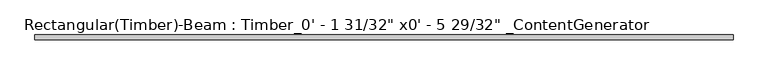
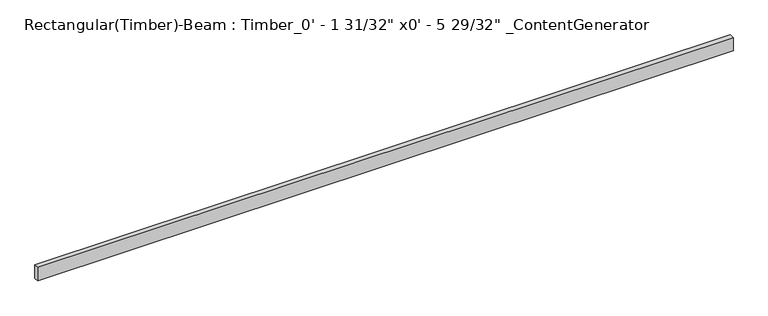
"""IFC4 building model written with IfcOpenShell, lengths in millimetres: beam geometry."""

from ifc_helpers import new_model, si_unit, frame, origin, place, context, project, spatial, polyline, outline, extrude, source, transform, mapped, element, save


def beam_53cde7c3(model_context):
    return source(origin(), model_context, "Body", "SweptSolid", [
        extrude(outline(polyline([(3759.1975, 25.4), (3759.1975, -25.4), (-3759.1975, -25.4), (-3759.1975, 25.4), (3759.1975, 25.4)])), frame((0.0, 0.0, -76.2), z_axis=(0.0, 0.0, 1.0), x_axis=(1.0, 0.0, 0.0)), (0.0, 0.0, 1.0), 152.4),
    ])


if __name__ == "__main__":
    model = new_model("IFC4")
    model_context = context("Model", 3, world=origin())
    ifc_project = project(units=[si_unit("LENGTHUNIT", "METRE", prefix="MILLI")], contexts=[model_context])
    site = spatial("IfcSite", under=ifc_project)
    building = spatial("IfcBuilding", under=site)
    placement = place(None, origin())
    beam_shape = beam_53cde7c3(model_context)
    element("IfcBeam", 1, ObjectType="Rectangular(Timber)-Beam : Timber_0' - 1 31/32\" x0' - 5 29/32\" _ContentGenerator", at=placement, inside=building, context=model_context, shape_type="MappedRepresentation", body=[
        mapped(beam_shape, transform((0.0, 0.0, 0.0), x_axis=(1.0, 0.0, 0.0), y_axis=(0.0, 1.0, 0.0), z_axis=(0.0, 0.0, 1.0))),
    ])
    save(model, "model.ifc")
